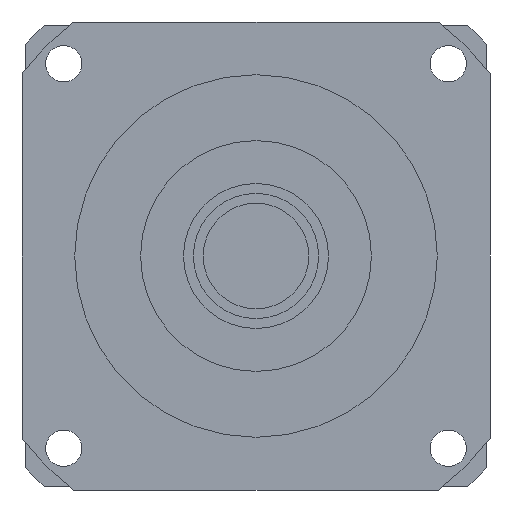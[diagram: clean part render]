
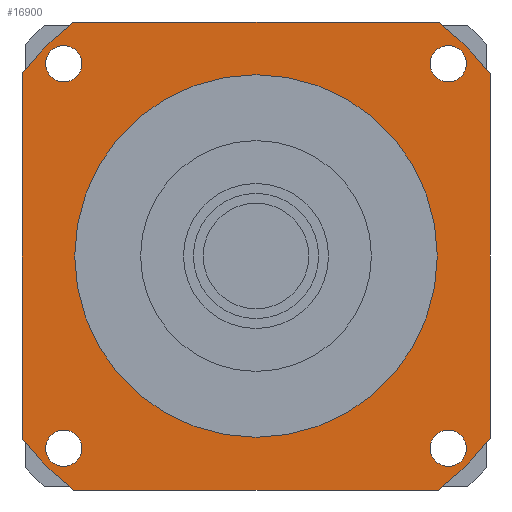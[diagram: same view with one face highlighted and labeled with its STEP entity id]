
A CAD part, left-side view. The second image highlights one B-rep face of the part: STEP entity #16900.
In plain terms, the highlighted planar face has unit normal (-1, 0, 0) as drawn and (0, 0, -1) by its records, which use the part's own axes.
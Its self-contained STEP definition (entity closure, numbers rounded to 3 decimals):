
#13420=CARTESIAN_POINT('',(71.,55.308,-84.7));
#13430=VERTEX_POINT('',#13420);
#13480=CARTESIAN_POINT('',(71.,71.,-84.7));
#13490=DIRECTION('',(0.,-1.,0.));
#13500=VECTOR('',#13490,1000.);
#13510=LINE('',#13480,#13500);
#13520=CARTESIAN_POINT('',(71.,-55.308,-84.7));
#13530=VERTEX_POINT('',#13520);
#13540=EDGE_CURVE('',#13430,#13530,#13510,.T.);
#15320=CARTESIAN_POINT('',(52.836,-58.336,-84.7));
#15330=VERTEX_POINT('',#15320);
#15360=CARTESIAN_POINT('',(58.336,-58.336,-84.7));
#15370=DIRECTION('',(0.,0.,-1.));
#15380=DIRECTION('',(1.,0.,0.));
#15390=AXIS2_PLACEMENT_3D('',#15360,#15370,#15380);
#15400=CIRCLE('',#15390,5.5);
#15410=CARTESIAN_POINT('',(63.836,-58.336,-84.7));
#15420=VERTEX_POINT('',#15410);
#15430=EDGE_CURVE('',#15420,#15330,#15400,.T.);
#15550=CARTESIAN_POINT('',(71.,71.,-84.7));
#15560=DIRECTION('',(0.,0.,-1.));
#15570=DIRECTION('',(1.,0.,0.));
#15580=AXIS2_PLACEMENT_3D('',#15550,#15560,#15570);
#15590=PLANE('',#15580);
#15600=CARTESIAN_POINT('',(-58.336,-58.336,-84.7));
#15610=DIRECTION('',(0.,0.,-1.));
#15620=DIRECTION('',(0.,-1.,0.));
#15630=AXIS2_PLACEMENT_3D('',#15600,#15610,#15620);
#15640=CIRCLE('',#15630,5.5);
#15650=CARTESIAN_POINT('',(-58.336,-63.836,-84.7));
#15660=VERTEX_POINT('',#15650);
#15670=CARTESIAN_POINT('',(-58.336,-52.836,-84.7));
#15680=VERTEX_POINT('',#15670);
#15690=EDGE_CURVE('',#15660,#15680,#15640,.T.);
#15700=ORIENTED_EDGE('',*,*,#15690,.F.);
#15710=EDGE_CURVE('',#15680,#15660,#15640,.T.);
#15720=ORIENTED_EDGE('',*,*,#15710,.F.);
#15730=EDGE_LOOP('',(#15720,#15700));
#15740=FACE_BOUND('',#15730,.T.);
#15750=CARTESIAN_POINT('',(-58.336,58.336,-84.7));
#15760=DIRECTION('',(0.,0.,-1.));
#15770=DIRECTION('',(-1.,0.,0.));
#15780=AXIS2_PLACEMENT_3D('',#15750,#15760,#15770);
#15790=CIRCLE('',#15780,5.5);
#15800=CARTESIAN_POINT('',(-63.836,58.336,-84.7));
#15810=VERTEX_POINT('',#15800);
#15820=CARTESIAN_POINT('',(-52.836,58.336,-84.7));
#15830=VERTEX_POINT('',#15820);
#15840=EDGE_CURVE('',#15810,#15830,#15790,.T.);
#15850=ORIENTED_EDGE('',*,*,#15840,.F.);
#15860=EDGE_CURVE('',#15830,#15810,#15790,.T.);
#15870=ORIENTED_EDGE('',*,*,#15860,.F.);
#15880=EDGE_LOOP('',(#15870,#15850));
#15890=FACE_BOUND('',#15880,.T.);
#15900=CARTESIAN_POINT('',(58.336,58.336,-84.7));
#15910=DIRECTION('',(0.,0.,-1.));
#15920=DIRECTION('',(0.,1.,0.));
#15930=AXIS2_PLACEMENT_3D('',#15900,#15910,#15920);
#15940=CIRCLE('',#15930,5.5);
#15950=CARTESIAN_POINT('',(58.336,63.836,-84.7));
#15960=VERTEX_POINT('',#15950);
#15970=CARTESIAN_POINT('',(58.336,52.836,-84.7));
#15980=VERTEX_POINT('',#15970);
#15990=EDGE_CURVE('',#15960,#15980,#15940,.T.);
#16000=ORIENTED_EDGE('',*,*,#15990,.F.);
#16010=EDGE_CURVE('',#15980,#15960,#15940,.T.);
#16020=ORIENTED_EDGE('',*,*,#16010,.F.);
#16030=EDGE_LOOP('',(#16020,#16000));
#16040=FACE_BOUND('',#16030,.T.);
#16050=CARTESIAN_POINT('',(0.,0.,
-84.7));
#16060=DIRECTION('',(0.,0.,1.));
#16070=DIRECTION('',(0.,1.,0.));
#16080=AXIS2_PLACEMENT_3D('',#16050,#16060,#16070);
#16090=CIRCLE('',#16080,55.);
#16100=CARTESIAN_POINT('',(-55.,0.,-84.7));
#16110=VERTEX_POINT('',#16100);
#16120=CARTESIAN_POINT('',(55.,0.,-84.7));
#16130=VERTEX_POINT('',#16120);
#16140=EDGE_CURVE('',#16110,#16130,#16090,.T.);
#16150=ORIENTED_EDGE('',*,*,#16140,.T.);
#16160=CARTESIAN_POINT('',(0.,55.,-84.7));
#16170=VERTEX_POINT('',#16160);
#16180=EDGE_CURVE('',#16170,#16110,#16090,.T.);
#16190=ORIENTED_EDGE('',*,*,#16180,.T.);
#16200=EDGE_CURVE('',#16130,#16170,#16090,.T.);
#16210=ORIENTED_EDGE('',*,*,#16200,.T.);
#16220=EDGE_LOOP('',(#16210,#16190,#16150));
#16230=FACE_BOUND('',#16220,.T.);
#16240=CARTESIAN_POINT('',(-71.,71.,-84.7));
#16250=DIRECTION('',(1.,0.,0.));
#16260=VECTOR('',#16250,1000.);
#16270=LINE('',#16240,#16260);
#16280=CARTESIAN_POINT('',(-55.308,71.,-84.7));
#16290=VERTEX_POINT('',#16280);
#16300=CARTESIAN_POINT('',(55.308,71.,-84.7));
#16310=VERTEX_POINT('',#16300);
#16320=EDGE_CURVE('',#16290,#16310,#16270,.T.);
#16330=ORIENTED_EDGE('',*,*,#16320,.T.);
#16340=CARTESIAN_POINT('',(0.,0.,
-84.7));
#16350=DIRECTION('',(0.,0.,-1.));
#16360=DIRECTION('',(1.,0.,0.));
#16370=AXIS2_PLACEMENT_3D('',#16340,#16350,#16360);
#16380=CIRCLE('',#16370,90.);
#16390=CARTESIAN_POINT('',(-71.,55.308,-84.7));
#16400=VERTEX_POINT('',#16390);
#16410=EDGE_CURVE('',#16400,#16290,#16380,.T.);
#16420=ORIENTED_EDGE('',*,*,#16410,.T.);
#16430=CARTESIAN_POINT('',(-71.,-71.,-84.7));
#16440=DIRECTION('',(0.,1.,0.));
#16450=VECTOR('',#16440,1000.);
#16460=LINE('',#16430,#16450);
#16470=CARTESIAN_POINT('',(-71.,-55.308,-84.7));
#16480=VERTEX_POINT('',#16470);
#16490=EDGE_CURVE('',#16480,#16400,#16460,.T.);
#16500=ORIENTED_EDGE('',*,*,#16490,.T.);
#16510=CARTESIAN_POINT('',(0.,0.,
-84.7));
#16520=DIRECTION('',(0.,0.,-1.));
#16530=DIRECTION('',(1.,0.,0.));
#16540=AXIS2_PLACEMENT_3D('',#16510,#16520,#16530);
#16550=CIRCLE('',#16540,90.);
#16560=CARTESIAN_POINT('',(-55.308,-71.,-84.7));
#16570=VERTEX_POINT('',#16560);
#16580=EDGE_CURVE('',#16570,#16480,#16550,.T.);
#16590=ORIENTED_EDGE('',*,*,#16580,.T.);
#16600=CARTESIAN_POINT('',(71.,-71.,-84.7));
#16610=DIRECTION('',(-1.,0.,0.));
#16620=VECTOR('',#16610,1000.);
#16630=LINE('',#16600,#16620);
#16640=CARTESIAN_POINT('',(55.308,-71.,-84.7));
#16650=VERTEX_POINT('',#16640);
#16660=EDGE_CURVE('',#16650,#16570,#16630,.T.);
#16670=ORIENTED_EDGE('',*,*,#16660,.T.);
#16680=CARTESIAN_POINT('',(0.,0.,
-84.7));
#16690=DIRECTION('',(0.,0.,-1.));
#16700=DIRECTION('',(1.,0.,0.));
#16710=AXIS2_PLACEMENT_3D('',#16680,#16690,#16700);
#16720=CIRCLE('',#16710,90.);
#16730=EDGE_CURVE('',#13530,#16650,#16720,.T.);
#16740=ORIENTED_EDGE('',*,*,#16730,.T.);
#16750=ORIENTED_EDGE('',*,*,#13540,.T.);
#16760=CARTESIAN_POINT('',(0.,0.,
-84.7));
#16770=DIRECTION('',(0.,0.,-1.));
#16780=DIRECTION('',(1.,0.,0.));
#16790=AXIS2_PLACEMENT_3D('',#16760,#16770,#16780);
#16800=CIRCLE('',#16790,90.);
#16810=EDGE_CURVE('',#16310,#13430,#16800,.T.);
#16820=ORIENTED_EDGE('',*,*,#16810,.T.);
#16830=EDGE_LOOP('',(#16820,#16750,#16740,#16670,#16590,#16500,#16420,
#16330));
#16840=FACE_OUTER_BOUND('',#16830,.T.);
#16850=ORIENTED_EDGE('',*,*,#15430,.F.);
#16860=EDGE_CURVE('',#15330,#15420,#15400,.T.);
#16870=ORIENTED_EDGE('',*,*,#16860,.F.);
#16880=EDGE_LOOP('',(#16870,#16850));
#16890=FACE_BOUND('',#16880,.T.);
#16900=ADVANCED_FACE('',(#15740,#15890,#16040,#16230,#16840,#16890),
#15590,.T.);
